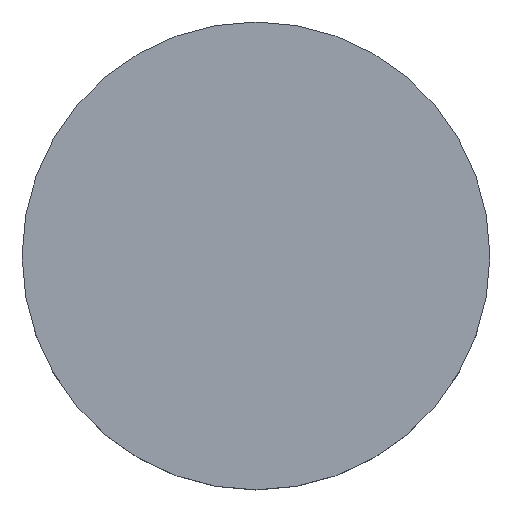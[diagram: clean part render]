
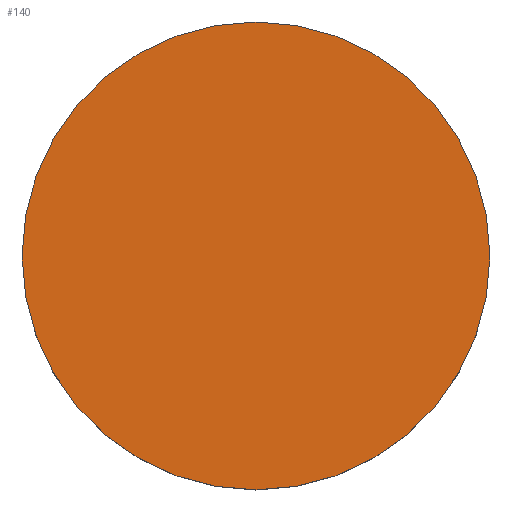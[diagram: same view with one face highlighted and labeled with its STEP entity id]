
A CAD part, top view. The second image highlights one B-rep face of the part: STEP entity #140.
In plain terms, the highlighted planar face has unit normal (0, 0, 1).
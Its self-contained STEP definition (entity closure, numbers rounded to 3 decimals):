
#24 = VERTEX_POINT('',#25);
#25 = CARTESIAN_POINT('',(4.,0.,4.7));
#32 = CYLINDRICAL_SURFACE('',#33,4.);
#33 = AXIS2_PLACEMENT_3D('',#34,#35,#36);
#34 = CARTESIAN_POINT('',(0.,0.,3.2));
#35 = DIRECTION('',(-0.,-0.,-1.));
#36 = DIRECTION('',(1.,0.,0.));
#51 = EDGE_CURVE('',#24,#24,#52,.T.);
#52 = SURFACE_CURVE('',#53,(#58,#65),.PCURVE_S1.);
#53 = CIRCLE('',#54,4.);
#54 = AXIS2_PLACEMENT_3D('',#55,#56,#57);
#55 = CARTESIAN_POINT('',(0.,0.,4.7));
#56 = DIRECTION('',(0.,0.,1.));
#57 = DIRECTION('',(1.,0.,0.));
#58 = PCURVE('',#32,#59);
#59 = DEFINITIONAL_REPRESENTATION('',(#60),#64);
#60 = LINE('',#61,#62);
#61 = CARTESIAN_POINT('',(-0.,-1.5));
#62 = VECTOR('',#63,1.);
#63 = DIRECTION('',(-1.,0.));
#64 = ( GEOMETRIC_REPRESENTATION_CONTEXT(2) 
PARAMETRIC_REPRESENTATION_CONTEXT() REPRESENTATION_CONTEXT('2D SPACE',''
  ) );
#65 = PCURVE('',#66,#71);
#66 = PLANE('',#67);
#67 = AXIS2_PLACEMENT_3D('',#68,#69,#70);
#68 = CARTESIAN_POINT('',(0.,0.,4.7));
#69 = DIRECTION('',(0.,0.,1.));
#70 = DIRECTION('',(1.,0.,-0.));
#71 = DEFINITIONAL_REPRESENTATION('',(#72),#76);
#72 = CIRCLE('',#73,4.);
#73 = AXIS2_PLACEMENT_2D('',#74,#75);
#74 = CARTESIAN_POINT('',(0.,0.));
#75 = DIRECTION('',(1.,0.));
#76 = ( GEOMETRIC_REPRESENTATION_CONTEXT(2) 
PARAMETRIC_REPRESENTATION_CONTEXT() REPRESENTATION_CONTEXT('2D SPACE',''
  ) );
#140 = ADVANCED_FACE('',(#141),#66,.T.);
#141 = FACE_BOUND('',#142,.T.);
#142 = EDGE_LOOP('',(#143));
#143 = ORIENTED_EDGE('',*,*,#51,.T.);
